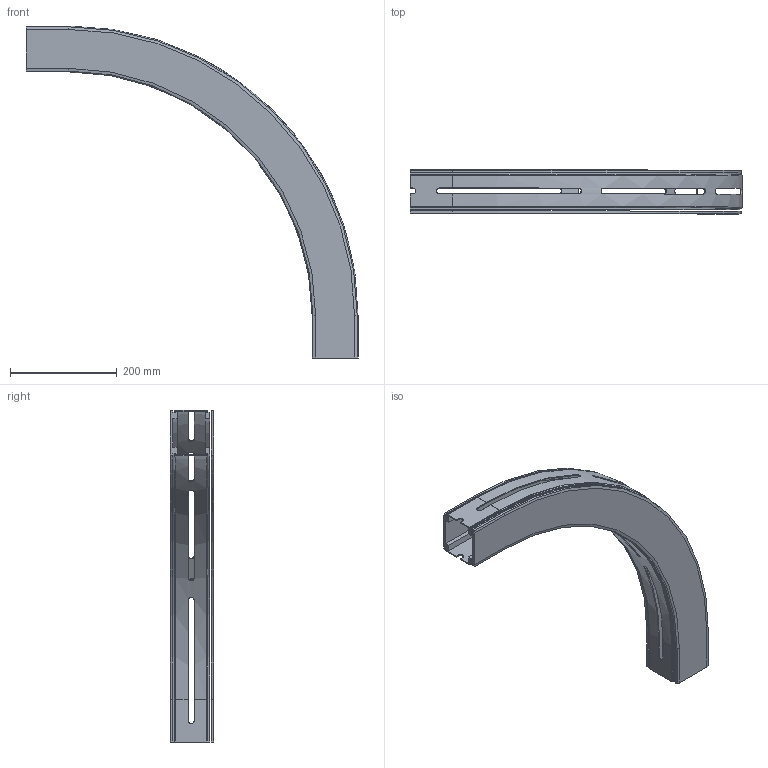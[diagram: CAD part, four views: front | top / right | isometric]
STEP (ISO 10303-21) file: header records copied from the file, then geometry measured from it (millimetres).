
FILE_DESCRIPTION((''),'2;1');
FILE_NAME('C:\Vault Klient\Projekt\Koncept konstruktion\Serie 530 Balk\530-5310.stp','2010-12-01T08:17:32',('Mathias'),(''),'Autodesk Inventor 2011','Autodesk Inventor 2011','');
FILE_SCHEMA(('AUTOMOTIVE_DESIGN { 1 0 10303 214 1 1 1 1 }'));
Length unit declared in the file: millimetre
Products named in the file (1): 530-5310
Bounding box: 623 x 82 x 623 mm (x, y, z)
Volume: 1368934.1 mm3; surface area: 654598.4 mm2
Topology: 2 solids, 2 shells, 175 faces, 506 edges, 332 vertices
Faces by surface type: plane 111, cylinder 34, bspline 22, torus 4, cone 4
Entity records: 6318 total; most frequent: CARTESIAN_POINT 1664, ORIENTED_EDGE 1012, DIRECTION 870, EDGE_CURVE 506, VECTOR 362, LINE 362, VERTEX_POINT 332, AXIS2_PLACEMENT_3D 254
